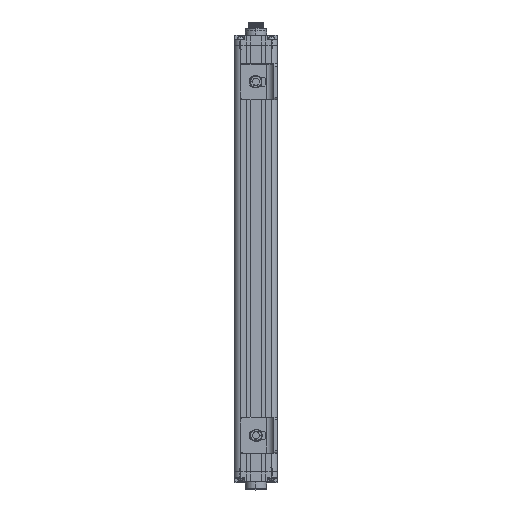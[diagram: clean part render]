
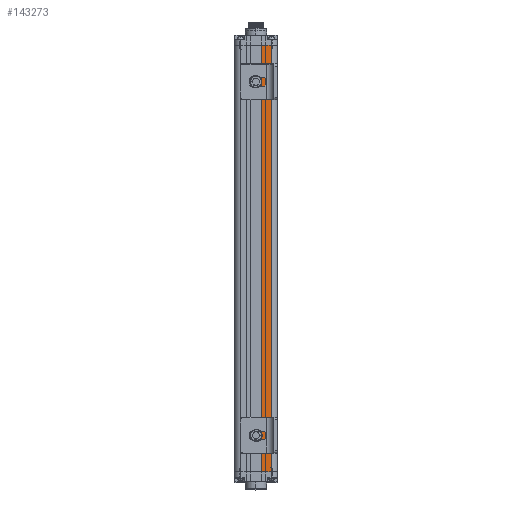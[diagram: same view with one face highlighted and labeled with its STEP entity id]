
A CAD part, top view. The second image highlights one B-rep face of the part: STEP entity #143273.
In plain terms, the highlighted planar face has unit normal (0, 0, 1).
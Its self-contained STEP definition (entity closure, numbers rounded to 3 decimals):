
#1349 = EDGE_CURVE ( 'NONE', #112452, #84285, #14983, .T. ) ;
#3734 = DIRECTION ( 'NONE',  ( 1., 0., 0. ) ) ;
#13050 = CARTESIAN_POINT ( 'NONE',  ( 4.4, 0., 13.225 ) ) ;
#14983 = LINE ( 'NONE', #19229, #120154 ) ;
#18262 = DIRECTION ( 'NONE',  ( 1., 0., 0. ) ) ;
#19229 = CARTESIAN_POINT ( 'NONE',  ( 0., 0., 13.225 ) ) ;
#24172 = EDGE_LOOP ( 'NONE', ( #101055, #37465, #95733, #110578 ) ) ;
#25682 = VECTOR ( 'NONE', #133902, 1000. ) ;
#25808 = PLANE ( 'NONE',  #94967 ) ;
#37465 = ORIENTED_EDGE ( 'NONE', *, *, #1349, .T. ) ;
#40087 = EDGE_CURVE ( 'NONE', #50789, #84285, #103183, .T. ) ;
#40951 = CARTESIAN_POINT ( 'NONE',  ( 4.4, 0., 13.225 ) ) ;
#50789 = VERTEX_POINT ( 'NONE', #112492 ) ;
#74114 = VECTOR ( 'NONE', #85632, 1000. ) ;
#80216 = DIRECTION ( 'NONE',  ( 0., 0., 1. ) ) ;
#80693 = VERTEX_POINT ( 'NONE', #98949 ) ;
#84285 = VERTEX_POINT ( 'NONE', #139690 ) ;
#85632 = DIRECTION ( 'NONE',  ( 0., -1., 0. ) ) ;
#87096 = CARTESIAN_POINT ( 'NONE',  ( 4.4, 0., 13.225 ) ) ;
#92595 = VECTOR ( 'NONE', #106112, 1000. ) ;
#94967 = AXIS2_PLACEMENT_3D ( 'NONE', #13050, #80216, #3734 ) ;
#95733 = ORIENTED_EDGE ( 'NONE', *, *, #40087, .F. ) ;
#98949 = CARTESIAN_POINT ( 'NONE',  ( 4.4, 345., 13.225 ) ) ;
#101055 = ORIENTED_EDGE ( 'NONE', *, *, #129104, .T. ) ;
#103183 = LINE ( 'NONE', #139918, #92595 ) ;
#103963 = LINE ( 'NONE', #87096, #74114 ) ;
#106112 = DIRECTION ( 'NONE',  ( 0., -1., 0. ) ) ;
#110578 = ORIENTED_EDGE ( 'NONE', *, *, #110860, .F. ) ;
#110860 = EDGE_CURVE ( 'NONE', #80693, #50789, #122130, .T. ) ;
#112452 = VERTEX_POINT ( 'NONE', #40951 ) ;
#112492 = CARTESIAN_POINT ( 'NONE',  ( 12.35, 345., 13.225 ) ) ;
#120154 = VECTOR ( 'NONE', #18262, 1000. ) ;
#122130 = LINE ( 'NONE', #133433, #25682 ) ;
#128035 = FACE_OUTER_BOUND ( 'NONE', #24172, .T. ) ;
#129104 = EDGE_CURVE ( 'NONE', #80693, #112452, #103963, .T. ) ;
#133433 = CARTESIAN_POINT ( 'NONE',  ( 0., 345., 13.225 ) ) ;
#133902 = DIRECTION ( 'NONE',  ( 1., 0., 0. ) ) ;
#139690 = CARTESIAN_POINT ( 'NONE',  ( 12.35, 0., 13.225 ) ) ;
#139918 = CARTESIAN_POINT ( 'NONE',  ( 12.35, 0., 13.225 ) ) ;
#143273 = ADVANCED_FACE ( 'NONE', ( #128035 ), #25808, .T. ) ;
